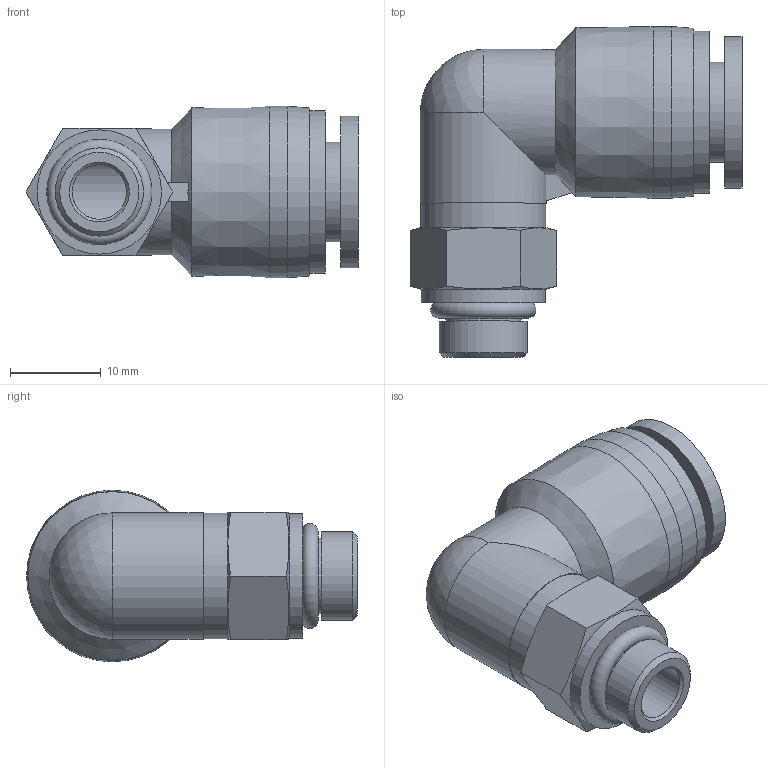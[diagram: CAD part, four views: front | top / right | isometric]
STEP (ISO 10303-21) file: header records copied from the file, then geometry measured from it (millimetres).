
FILE_DESCRIPTION(/* description */ (''),/* implementation_level */ '2;1');
FILE_NAME(/* name */ 'S:\_Tecnico\ArchivioUT\_Disegni3D ingombri\DISEGNI 3D per ingombri\RP\RP 72\RP721810.stp',/* time_stamp */ '2019-09-03T09:22:03+02:00',/* author */ ('ufficiotecnico3'),/* organization */ (''),/* preprocessor_version */ 'ST-DEVELOPER v18',/* originating_system */ 'Autodesk Inventor 2020',/* authorisation */ '');
FILE_SCHEMA (('AUTOMOTIVE_DESIGN { 1 0 10303 214 3 1 1 }'));
Length unit declared in the file: millimetre
Products named in the file (1): RP721810
Bounding box: 36.58 x 36.45 x 18.9 mm (x, y, z)
Volume: 6782.2 mm3; surface area: 4775.9 mm2
Topology: 1 solids, 2 shells, 42 faces, 111 edges, 77 vertices
Faces by surface type: plane 18, cylinder 13, cone 8, torus 2, sphere 1
Full cylindrical faces by diameter (mm): 6 x1, 8.3 x2, 9.728 x1, 10 x1, 11 x1, 13.7 x1, 13.8 x1, 13.9 x1, 16.7 x1, 17.9 x1, 18.9 x1
Entity records: 1415 total; most frequent: CARTESIAN_POINT 295, DIRECTION 240, ORIENTED_EDGE 220, EDGE_CURVE 110, AXIS2_PLACEMENT_3D 104, VERTEX_POINT 77, CIRCLE 58, EDGE_LOOP 51
